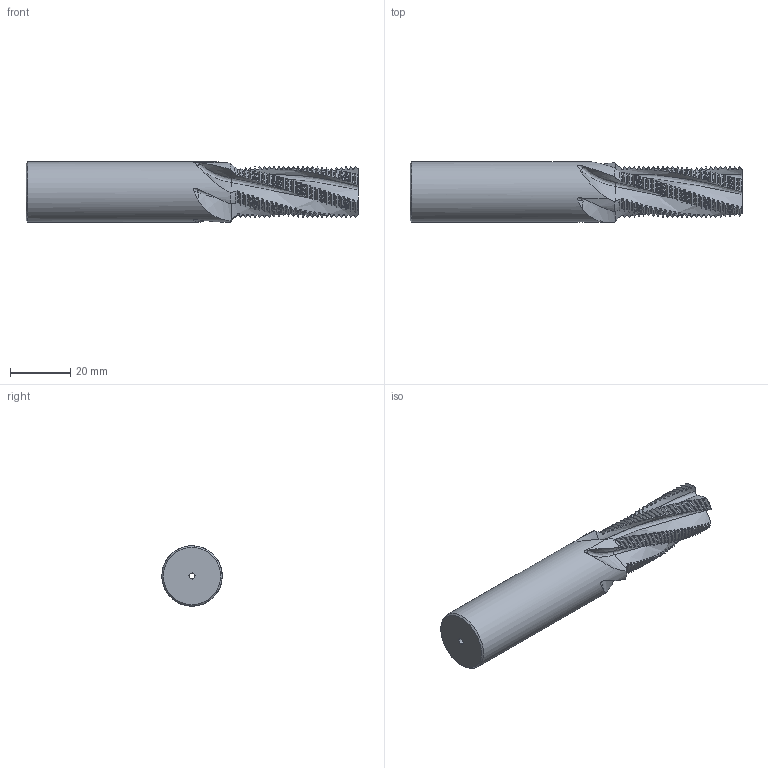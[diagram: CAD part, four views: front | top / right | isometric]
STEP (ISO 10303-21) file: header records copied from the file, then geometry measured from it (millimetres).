
FILE_DESCRIPTION(/* description */ (''),/* implementation_level */ '2;1');
FILE_NAME(/* name */ '171606-00036530-STEP',/* time_stamp */ '2024-02-21T09:52:47+01:00',/* author */ (''),/* organization */ (''),/* preprocessor_version */ 'ST-DEVELOPER v16.5',/* originating_system */ 'HiCAD 2017 2201.0 Build 268',/* authorisation */ '');
FILE_SCHEMA (('AUTOMOTIVE_DESIGN { 1 0 10303 214 1 1 1 1 }'));
Products named in the file (2): Root; ROTATIONSTEIL_0
Assembly tree (1 placements, depth 2):
  Root
    ROTATIONSTEIL_0
Bounding box: 110 x 20 x 20 mm (x, y, z)
Volume: 25900.8 mm3; surface area: 8847.6 mm2
Topology: 1 solids, 1 shells, 826 faces, 2704 edges, 1880 vertices
Faces by surface type: torus 380, cone 261, cylinder 138, bspline 45, plane 2
Full cylindrical faces by diameter (mm): 2 x1, 20 x1
Entity records: 93941 total; most frequent: CARTESIAN_POINT 48226, PRESENTATION_STYLE_ASSIGNMENT 5393, COLOUR_RGB 5393, DRAUGHTING_PRE_DEFINED_CURVE_FONT 5392, CURVE_STYLE 5392, OVER_RIDING_STYLED_ITEM 5392, ORIENTED_EDGE 5392, DIRECTION 3136
